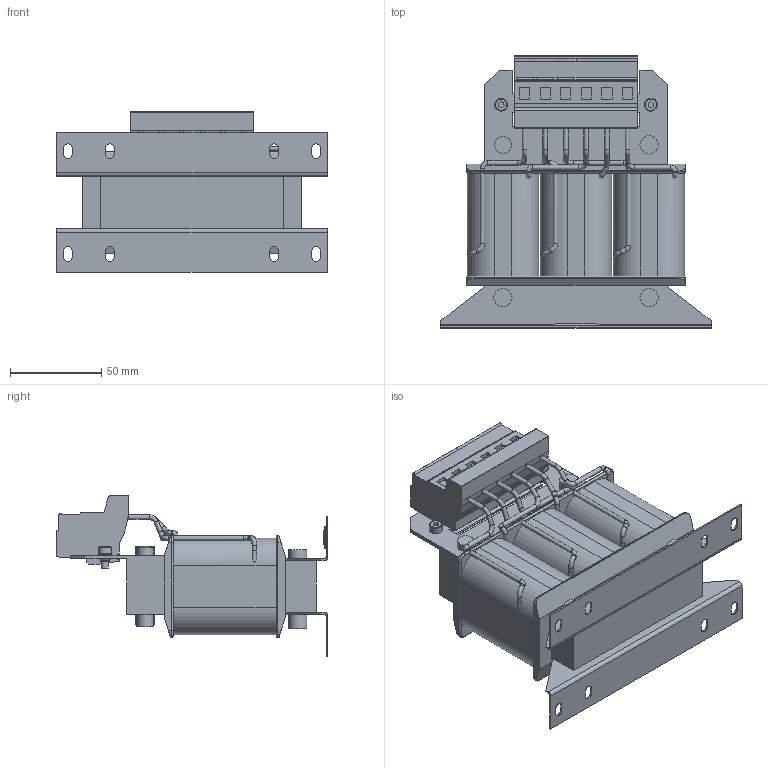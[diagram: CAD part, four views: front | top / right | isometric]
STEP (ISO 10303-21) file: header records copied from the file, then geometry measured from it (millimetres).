
FILE_DESCRIPTION (( 'STEP AP214' ), '1' );
FILE_NAME ('14Z1B03-10001.STEP', '2022-04-05T09:55:14', ( '' ), ( '' ), 'SwSTEP 2.0', 'SolidWorks 2019', '' );
FILE_SCHEMA (( 'AUTOMOTIVE_DESIGN' ));
Length unit declared in the file: millimetre
Products named in the file (1): 14Z1B03-10001
Bounding box: 148 x 148.9 x 87.95 mm (x, y, z)
Volume: 577381.2 mm3; surface area: 92037.2 mm2
Topology: 1 solids, 1 shells, 404 faces, 1073 edges, 694 vertices
Faces by surface type: plane 206, cylinder 122, torus 42, bspline 30, cone 4
Full cylindrical faces by diameter (mm): 2.5 x35, 4 x4, 4.78 x2, 7 x2, 9 x2, 10 x6
Entity records: 14505 total; most frequent: CARTESIAN_POINT 4873, ORIENTED_EDGE 1928, DIRECTION 1782, EDGE_CURVE 964, VERTEX_POINT 674, AXIS2_PLACEMENT_3D 614, EDGE_LOOP 556, LINE 554
